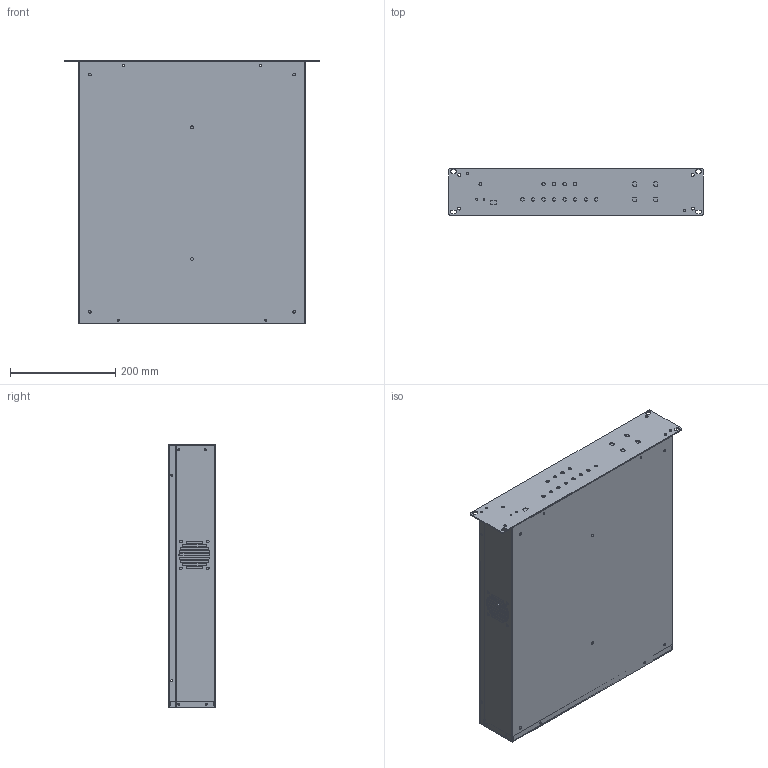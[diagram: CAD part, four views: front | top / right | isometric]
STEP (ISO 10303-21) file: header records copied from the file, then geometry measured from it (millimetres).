
FILE_DESCRIPTION(/* description */ (''),/* implementation_level */ '2;1');
FILE_NAME(/* name */ '新装配_stp.stp',/* time_stamp */ '2026-07-21T15:34:16+08:00',/* author */ (''),/* organization */ (''),/* preprocessor_version */ 'ST-DEVELOPER v20.1',/* originating_system */ 'SIEMENS PLM Software NX2512.1700',/* authorisation */ '');
FILE_SCHEMA (('AUTOMOTIVE_DESIGN { 1 0 10303 214 3 1 1 1 }'));
Length unit declared in the file: millimetre
Products named in the file (5): 盖板; 面板; 背板; 侧板; 装配_stp
Assembly tree (4 placements, depth 2):
  装配_stp
    侧板
    背板
    面板
    盖板
Bounding box: 483 x 89 x 500 mm (x, y, z)
Volume: 16274315.9 mm3; surface area: 1376410.1 mm2
Topology: 4 solids, 4 shells, 418 faces, 1150 edges, 740 vertices
Faces by surface type: cylinder 216, plane 194, bspline 8
Full cylindrical faces by diameter (mm): 4 x4, 5.4 x6
Entity records: 14100 total; most frequent: CARTESIAN_POINT 2611, DIRECTION 2378, ORIENTED_EDGE 2308, EDGE_CURVE 1154, AXIS2_PLACEMENT_3D 841, VERTEX_POINT 754, LINE 696, VECTOR 696
